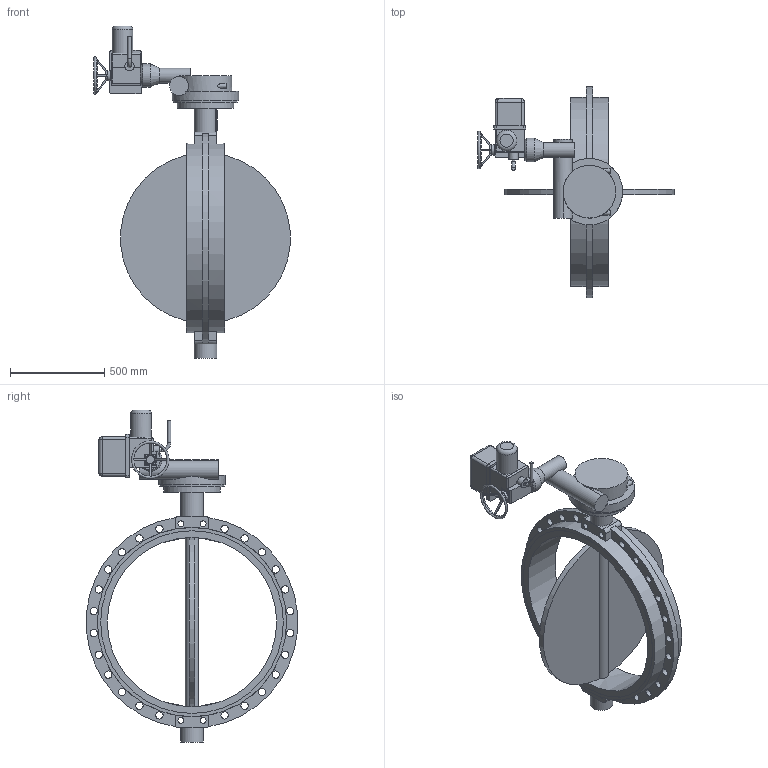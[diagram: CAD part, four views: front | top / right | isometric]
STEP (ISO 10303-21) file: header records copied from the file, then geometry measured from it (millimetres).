
FILE_DESCRIPTION(('STEP AP203'), '1');
FILE_NAME('Çàòâîð 017WDN900 ðåäóêòîð+ÝÏ ÌÒ903Ì.10', '', ('UNSPECIFIED'), ('UNSPECIFIED'), 'ASCON STEP Converter 1.6', 'ASCON Math Kernel', '');
FILE_SCHEMA(('CONFIG_CONTROL_DESIGN'));
Length unit declared in the file: millimetre
Bounding box: 1042.26 x 1121.08 x 1763.5 mm (x, y, z)
Volume: 90109929.6 mm3; surface area: 4397146.2 mm2
Topology: 1 solids, 1 shells, 842 faces, 2356 edges, 1551 vertices
Faces by surface type: cylinder 582, plane 242, bspline 10, cone 4, torus 3, sphere 1
Full cylindrical faces by diameter (mm): 14 x8, 18 x10, 25 x2, 31.67 x4, 39 x24, 50 x1, 54 x1, 80 x1, 100 x1, 110 x1, 120 x2, 125 x1, 280 x1, 300 x1, 340 x1, 353 x1, 900 x1, 970 x2, 1005 x2
Entity records: 37344 total; most frequent: CARTESIAN_POINT 8115, DIRECTION 5060, ORIENTED_EDGE 4550, EDGE_CURVE 2275, AXIS2_PLACEMENT_3D 2019, VERTEX_POINT 1549, CIRCLE 1187, EDGE_LOOP 1022
